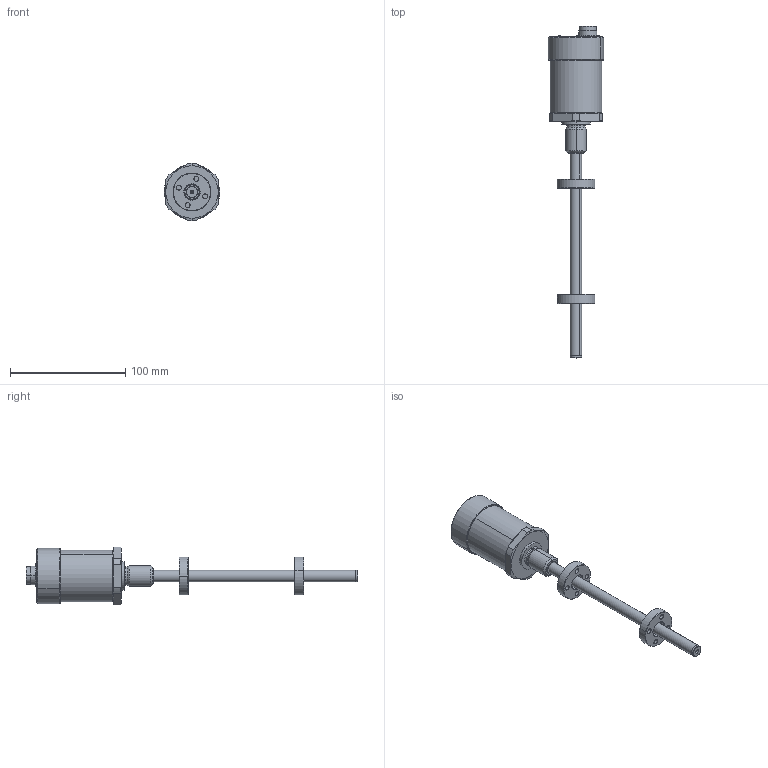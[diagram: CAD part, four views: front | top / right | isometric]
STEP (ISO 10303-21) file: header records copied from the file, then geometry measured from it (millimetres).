
FILE_DESCRIPTION (( 'STEP AP203' ), '1' );
FILE_NAME ('WRP-A-B-0100.STEP', '2019-03-21T13:48:14', ( '' ), ( '' ), 'SwSTEP 2.0', 'SolidWorks 2019', '' );
FILE_SCHEMA (( 'CONFIG_CONTROL_DESIGN' ));
Length unit declared in the file: millimetre
Products named in the file (12): PUN028x; NIP985x_R1; PTUBWAM0100x_R1(08-08-12); TES625; CON033x; CUR027x; TUBW0100x; CUS074x_Revisione1; WRP-A-B-0100; 51021x; TES621x_R2 (08-08-12); PTES174x_R2 (08-08-12)
Assembly tree (12 placements, depth 3):
  WRP-A-B-0100
    PTUBWAM0100x_R1(08-08-12)
      TUBW0100x
      NIP985x_R1
      CUS074x_Revisione1
      PUN028x
    CUR027x  x2
    PTES174x_R2 (08-08-12)
      TES621x_R2 (08-08-12)
      51021x
      CON033x
    TES625
Bounding box: 47.95 x 287.7 x 50 mm (x, y, z)
Volume: 165130.5 mm3; surface area: 45397.5 mm2
Topology: 10 solids, 10 shells, 396 faces, 917 edges, 570 vertices
Faces by surface type: cylinder 164, plane 121, cone 87, bspline 12, torus 10, sphere 2
Entity records: 11830 total; most frequent: DIRECTION 1994, CARTESIAN_POINT 1986, ORIENTED_EDGE 1654, EDGE_CURVE 827, AXIS2_PLACEMENT_3D 818, VERTEX_POINT 522, CIRCLE 451, EDGE_LOOP 417
